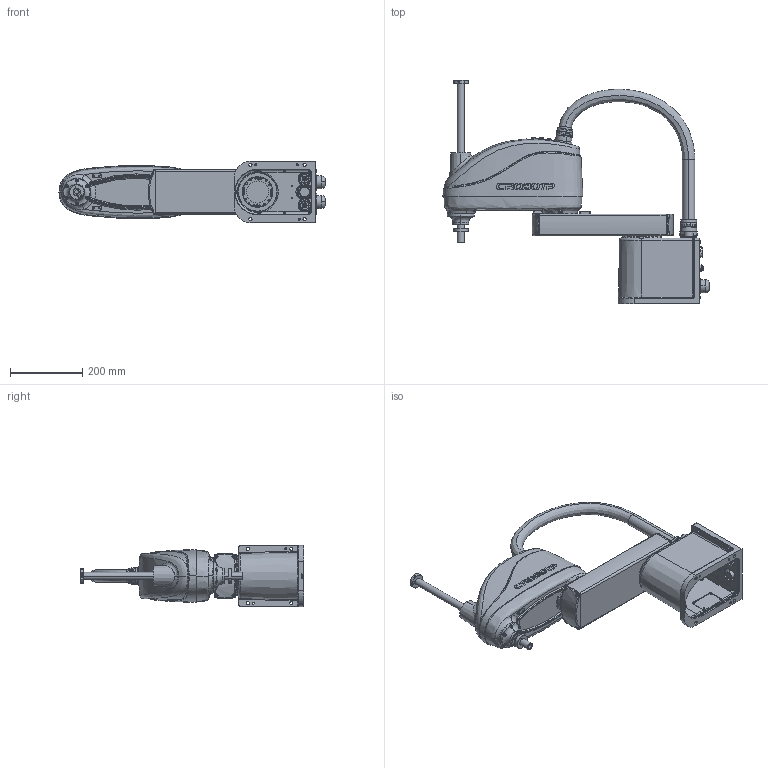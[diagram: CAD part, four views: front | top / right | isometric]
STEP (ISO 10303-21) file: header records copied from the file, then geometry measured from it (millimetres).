
FILE_DESCRIPTION (( 'STEP AP214' ), '1' );
FILE_NAME ('CRP-RS05-06.STEP', '2024-07-26T02:58:03', ( '' ), ( '' ), 'SwSTEP 2.0', 'SolidWorks 2021', '' );
FILE_SCHEMA (( 'AUTOMOTIVE_DESIGN' ));
Length unit declared in the file: millimetre
Products named in the file (7): RS0506-02 湮旋蚾饜极; Harness_1-CRP-RS05-06; RS0606-04 佪裝; RS0606-03 苤旋蚾饜极; 萇擢^Harness_1-CRP-RS05-06; CRP-RS05-06; RS0606-01 菁釱郪璃(淏蚾)
Assembly tree (6 placements, depth 3):
  CRP-RS05-06
    RS0606-01 菁釱郪璃(淏蚾)
    RS0506-02 湮旋蚾饜极
    RS0606-03 苤旋蚾饜极
    RS0606-04 佪裝
    Harness_1-CRP-RS05-06
      萇擢^Harness_1-CRP-RS05-06
Bounding box: 736.14 x 619.3 x 170 mm (x, y, z)
Volume: 16772604.6 mm3; surface area: 1005356 mm2
Topology: 33 solids, 86 shells, 4067 faces, 9797 edges, 6110 vertices
Faces by surface type: plane 1753, cylinder 1116, bspline 512, cone 501, torus 143, sphere 42
Entity records: 160306 total; most frequent: CARTESIAN_POINT 63022, ORIENTED_EDGE 19206, DIRECTION 19108, EDGE_CURVE 9603, AXIS2_PLACEMENT_3D 7308, VERTEX_POINT 6070, EDGE_LOOP 4653, VECTOR 4492
